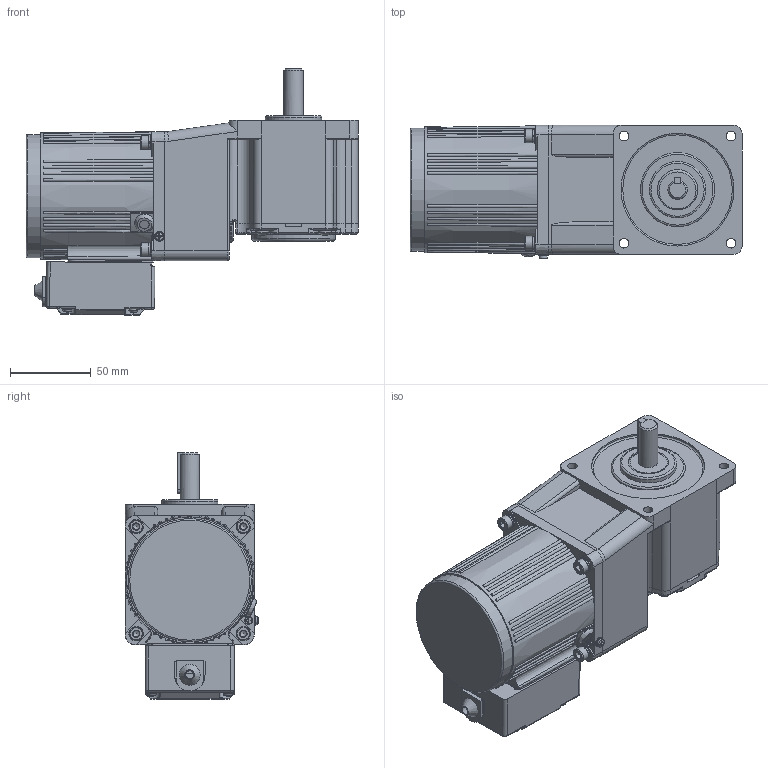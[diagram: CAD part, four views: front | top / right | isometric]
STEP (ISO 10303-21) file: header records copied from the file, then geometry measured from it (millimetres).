
FILE_DESCRIPTION(/* description */ (''),/* implementation_level */ '2;1');
FILE_NAME(/* name */ '80+中实直角-普通-25-40W 新版标准接线盒.stp',/* time_stamp */ '2025-11-26T08:48:33+08:00',/* author */ (''),/* organization */ (''),/* preprocessor_version */ 'ST-DEVELOPER v18.102',/* originating_system */ 'SIEMENS PLM Software NX 2027',/* authorisation */ '');
FILE_SCHEMA (('AUTOMOTIVE_DESIGN { 1 0 10303 214 3 1 1 1 }'));
Products named in the file (1): 80+中实直角-普通-25-40W 新版标准接线盒_
stp_objects
Bounding box: 206 x 82.78 x 152.84 mm (x, y, z)
Volume: 1147079.4 mm3; surface area: 150394 mm2
Topology: 16 solids, 16 shells, 1541 faces, 3843 edges, 2390 vertices
Faces by surface type: plane 699, cylinder 469, torus 139, cone 110, bspline 92, sphere 32
Full cylindrical faces by diameter (mm): 2.2 x2, 2.6 x1, 2.7 x1, 2.9 x4, 3.2 x1, 3.5 x2, 4.2 x5, 4.4 x1, 4.8 x1, 4.826 x4, 5 x9, 5.1 x1, 5.3 x4, 5.6 x4, 6 x12, 7 x1, 8 x5, 8.2 x1, 8.5 x4, 9 x4, 10 x2, 10.5 x1, 12 x1, 19 x1, 25 x1, 26 x1, 35 x1, 46 x1, 52 x1, 56 x1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
Entity records: 52400 total; most frequent: CARTESIAN_POINT 17527, ORIENTED_EDGE 7132, DIRECTION 7001, EDGE_CURVE 3566, AXIS2_PLACEMENT_3D 2691, VERTEX_POINT 2311, EDGE_LOOP 1824, LINE 1619
